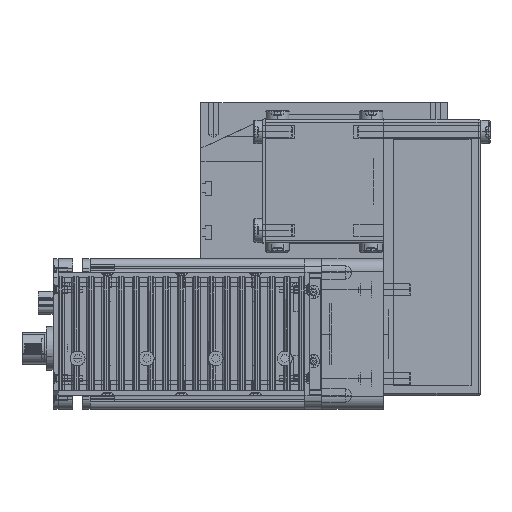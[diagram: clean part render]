
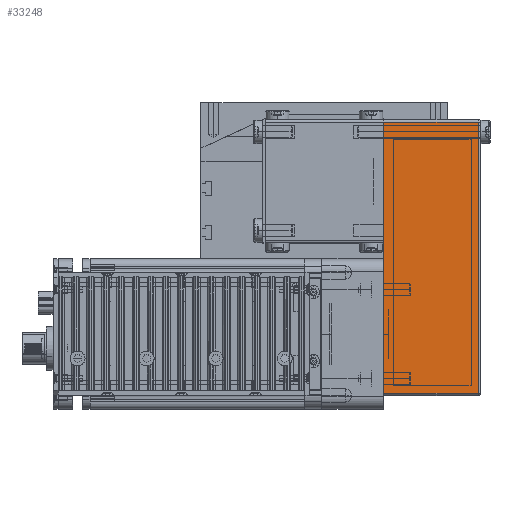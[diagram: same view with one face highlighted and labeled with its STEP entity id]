
A CAD part, top view. The second image highlights one B-rep face of the part: STEP entity #33248.
In plain terms, the highlighted planar face has unit normal (0, 0, 1) as drawn and (0, -1, 0) by its records, which use the part's own axes.
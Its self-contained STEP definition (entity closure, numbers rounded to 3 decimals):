
#9879 = CARTESIAN_POINT ( 'NONE',  ( -49., -25., 0. ) ) ;
#9926 = DIRECTION ( 'NONE',  ( 0., 0., 1. ) ) ;
#9927 = VECTOR ( 'NONE', #9926, 1000. ) ;
#9928 = CARTESIAN_POINT ( 'NONE',  ( -49., -25., 39.5 ) ) ;
#9929 = LINE ( 'NONE', #9928, #9927 ) ;
#9935 = CARTESIAN_POINT ( 'NONE',  ( -49., -25., 38.5 ) ) ;
#10014 = DIRECTION ( 'NONE',  ( 0., 0., -1. ) ) ;
#10015 = VECTOR ( 'NONE', #10014, 1000. ) ;
#10016 = CARTESIAN_POINT ( 'NONE',  ( 61., -25., 39.5 ) ) ;
#10030 = LINE ( 'NONE', #10016, #10015 ) ;
#10031 = CARTESIAN_POINT ( 'NONE',  ( 61., -25., 0. ) ) ;
#10044 = CARTESIAN_POINT ( 'NONE',  ( 61., -25., 38.5 ) ) ;
#10138 = LINE ( 'NONE', #10206, #10197 ) ;
#10174 = DIRECTION ( 'NONE',  ( 0., 0., 1. ) ) ;
#10175 = DIRECTION ( 'NONE',  ( 0., 1., 0. ) ) ;
#10186 = FACE_OUTER_BOUND ( 'NONE', #33242, .T. ) ;
#10188 = AXIS2_PLACEMENT_3D ( 'NONE', #10200, #10175, #10174 ) ;
#10190 = DIRECTION ( 'NONE',  ( 1., 0., 0. ) ) ;
#10191 = VECTOR ( 'NONE', #10190, 1000. ) ;
#10195 = PLANE ( 'NONE',  #10188 ) ;
#10196 = DIRECTION ( 'NONE',  ( 1., 0., 0. ) ) ;
#10197 = VECTOR ( 'NONE', #10196, 1000. ) ;
#10200 = CARTESIAN_POINT ( 'NONE',  ( -50., -25., 39.5 ) ) ;
#10206 = CARTESIAN_POINT ( 'NONE',  ( -50., -25., 0. ) ) ;
#10207 = CARTESIAN_POINT ( 'NONE',  ( -50., -25., 38.5 ) ) ;
#10208 = LINE ( 'NONE', #10207, #10191 ) ;
#33065 = VERTEX_POINT ( 'NONE', #9879 ) ;
#33066 = VERTEX_POINT ( 'NONE', #9935 ) ;
#33069 = EDGE_CURVE ( 'NONE', #33065, #33066, #9929, .T. ) ;
#33133 = VERTEX_POINT ( 'NONE', #10031 ) ;
#33139 = EDGE_CURVE ( 'NONE', #33163, #33133, #10030, .T. ) ;
#33163 = VERTEX_POINT ( 'NONE', #10044 ) ;
#33235 = EDGE_CURVE ( 'NONE', #33065, #33133, #10138, .T. ) ;
#33240 = EDGE_CURVE ( 'NONE', #33066, #33163, #10208, .T. ) ;
#33242 = EDGE_LOOP ( 'NONE', ( #33251, #33255, #33245, #33323 ) ) ;
#33245 = ORIENTED_EDGE ( 'NONE', *, *, #33139, .F. ) ;
#33248 = ADVANCED_FACE ( 'NONE', ( #10186 ), #10195, .F. ) ;
#33251 = ORIENTED_EDGE ( 'NONE', *, *, #33069, .F. ) ;
#33255 = ORIENTED_EDGE ( 'NONE', *, *, #33235, .T. ) ;
#33323 = ORIENTED_EDGE ( 'NONE', *, *, #33240, .F. ) ;
